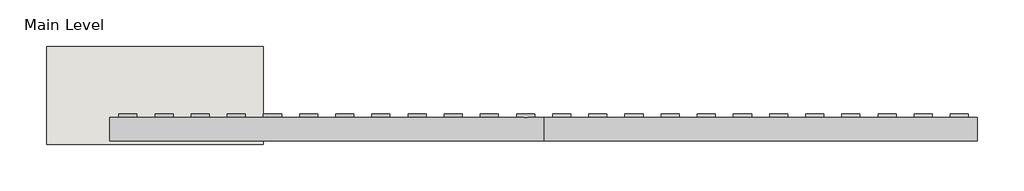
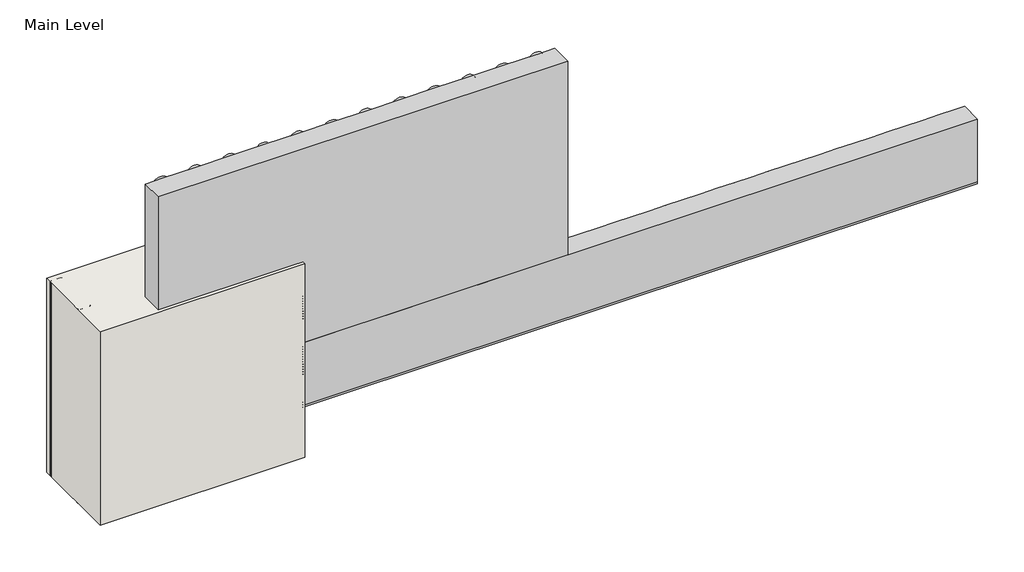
# One storey, incomplete: 9 proxies, 1 wall.
"""IFC4 building model written with IfcOpenShell, lengths in millimetres."""

from ifc_helpers import new_model, si_unit, origin, origin_with_axes, place, context, project, spatial, polyline, outline, extrude, transform, mapped, element, save
from components import generic_models_f9e3ba3a, generic_models_6aeff0d6, generic_models_a7b0360c, generic_models_f109a2ff, generic_models_8dcf8eaa, generic_models_31547c53, generic_models_4ceaeb6f, proxy_50213ae0, proxy_cc65e3d2

model = new_model("IFC4")

# Units and contexts
model_context = context("Model", 3, world=origin())
ifc_project = project(units=[si_unit("LENGTHUNIT", "METRE", prefix="MILLI")], contexts=[model_context])

# Site, building, storey
site = spatial("IfcSite", under=ifc_project)
building = spatial("IfcBuilding", under=site)
storey = spatial("IfcBuildingStorey", under=building, Name="Main Level", Elevation=0.0)

# Proxies
placement = place(None, origin())
generic_models_shape = generic_models_f9e3ba3a(model_context)
element("IfcBuildingElementProxy", 1, Name="Durabond Generic Model Insulation Adhesive Flat : Durabond Generic Model Insulation Adhesive Flat", ObjectType="Durabond Generic Model Insulation Adhesive Flat : Durabond Generic Model Insulation Adhesive Flat", at=placement, inside=storey, context=model_context, shape_type="MappedRepresentation", body=[
    mapped(generic_models_shape, transform((26717.7726773, 627.6316297, 215.9), x_axis=(1.0, 0.0, 0.0), y_axis=(0.0, 1.0, 0.0), z_axis=(0.0, 0.0, 1.0))),
])
element("IfcBuildingElementProxy", 2, Name="Durabond Generic Model Insulation Adhesive Flat : Durabond Generic Model Insulation Adhesive Flat", ObjectType="Durabond Generic Model Insulation Adhesive Flat : Durabond Generic Model Insulation Adhesive Flat", at=placement, inside=storey, context=model_context, shape_type="MappedRepresentation", body=[
    mapped(generic_models_shape, transform((26819.3726773, 627.6316297, 215.9), x_axis=(1.0, 0.0, 0.0), y_axis=(0.0, 1.0, 0.0), z_axis=(0.0, 0.0, 1.0))),
])
element("IfcBuildingElementProxy", 3, Name="Durabond Generic Model Insulation Adhesive Flat : Durabond Generic Model Insulation Adhesive Flat", ObjectType="Durabond Generic Model Insulation Adhesive Flat : Durabond Generic Model Insulation Adhesive Flat", at=placement, inside=storey, context=model_context, shape_type="MappedRepresentation", body=[
    mapped(generic_models_shape, transform((26920.9726773, 627.6316297, 215.9), x_axis=(1.0, 0.0, 0.0), y_axis=(0.0, 1.0, 0.0), z_axis=(0.0, 0.0, 1.0))),
])
element("IfcBuildingElementProxy", 4, Name="Durabond Generic Model Insulation Adhesive Flat : Durabond Generic Model Insulation Adhesive Flat", ObjectType="Durabond Generic Model Insulation Adhesive Flat : Durabond Generic Model Insulation Adhesive Flat", at=placement, inside=storey, context=model_context, shape_type="MappedRepresentation", body=[
    mapped(generic_models_shape, transform((27022.5726773, 627.6316297, 215.9), x_axis=(1.0, 0.0, 0.0), y_axis=(0.0, 1.0, 0.0), z_axis=(0.0, 0.0, 1.0))),
])
generic_models_2_shape = generic_models_6aeff0d6(model_context)
generic_models_3_shape = generic_models_a7b0360c(model_context)
generic_models_4_shape = generic_models_f109a2ff(model_context)
generic_models_5_shape = generic_models_8dcf8eaa(model_context)
element("IfcBuildingElementProxy", 5, Name="CRAi Generic Model Mesh Piece Face Based : CRAi Generic Model Mesh Piece Face Based", ObjectType="CRAi Generic Model Mesh Piece Face Based : CRAi Generic Model Mesh Piece Face Based", at=placement, inside=storey, context=model_context, shape_type="MappedRepresentation", body=[
    mapped(generic_models_2_shape, transform((26933.6726773, 541.9066297, 330.2), x_axis=(-1.0, 0.0, 0.0), y_axis=(0.0, 0.0, -1.0), z_axis=(0.0, -1.0, 0.0))),
    mapped(generic_models_3_shape, transform((26933.6726773, 541.9066297, 330.2), x_axis=(-1.0, 0.0, 0.0), y_axis=(0.0, 0.0, -1.0), z_axis=(0.0, -1.0, 0.0))),
    mapped(generic_models_4_shape, transform((26933.6726773, 541.9066297, 330.2), x_axis=(-1.0, 0.0, 0.0), y_axis=(0.0, 0.0, -1.0), z_axis=(0.0, -1.0, 0.0))),
    mapped(generic_models_5_shape, transform((26933.6726773, 541.9066297, 330.2), x_axis=(-1.0, 0.0, 0.0), y_axis=(0.0, 0.0, -1.0), z_axis=(0.0, -1.0, 0.0))),
])
generic_models_6_shape = generic_models_31547c53(model_context)
element("IfcBuildingElementProxy", 6, Name="Durabond Generic Model Sealant Vent : Durabond Generic Model Sealant Vent", ObjectType="Durabond Generic Model Sealant Vent : Durabond Generic Model Sealant Vent", at=placement, inside=storey, context=model_context, shape_type="MappedRepresentation", body=[
    mapped(generic_models_6_shape, transform((26878.1101773, 570.4816297, 146.84375), x_axis=(1.0, 0.0, 0.0), y_axis=(0.0, 0.0, 1.0), z_axis=(0.0, -1.0, 0.0))),
])
generic_models_7_shape = generic_models_4ceaeb6f(model_context)
element("IfcBuildingElementProxy", 7, Name="CRAi Generic Model Metal Stud Array : CRAi Generic Model Metal Stud Array", ObjectType="CRAi Generic Model Metal Stud Array : CRAi Generic Model Metal Stud Array", at=placement, inside=storey, context=model_context, shape_type="MappedRepresentation", body=[
    mapped(generic_models_7_shape, transform((26692.3726773, 726.0566297, 0.0), x_axis=(-1.0, 0.0, 0.0), y_axis=(0.0, -1.0, 0.0), z_axis=(0.0, 0.0, 1.0))),
])
proxy_shape = proxy_50213ae0(model_context)
element("IfcBuildingElementProxy", 8, Name="Durabond Generic Model Quantum Select 5-0 Insulation Board : 3\"", ObjectType="Durabond Generic Model Quantum Select 5-0 Insulation Board : 3\"", at=placement, inside=storey, context=model_context, shape_type="MappedRepresentation", body=[
    mapped(proxy_shape, transform((27276.5726773, 624.4566297, 660.4), x_axis=(1.0, 0.0, 0.0), y_axis=(0.0, 0.0, 1.0), z_axis=(0.0, -1.0, 0.0))),
])
proxy_2_shape = proxy_cc65e3d2(model_context)
element("IfcBuildingElementProxy", 9, Name="Durabond Generic Model Quantum Select 5-0 Vent Board : 3\"", ObjectType="Durabond Generic Model Quantum Select 5-0 Vent Board : 3\"", at=placement, inside=storey, context=model_context, shape_type="MappedRepresentation", body=[
    mapped(proxy_2_shape, transform((27886.1726773, 624.4566297, 254.0), x_axis=(1.0, 0.0, 0.0), y_axis=(0.0, 0.0, 1.0), z_axis=(0.0, -1.0, 0.0))),
])

# Wall
element("IfcWall", 10, ObjectType="189mm (7.5”) EIFS Field Applied on Mtl. Stud Layer - 50mm Grooved Insulation Board Metal Stud Wall", at=placement, inside=storey, context=model_context, shape_type="SweptSolid", body=[
    extrude(outline(polyline([(27098.7726773, 538.7316297), (26489.1726773, 538.7316297), (26489.1726773, 814.9566297), (27098.7726773, 814.9566297), (27098.7726773, 538.7316297)])), origin_with_axes(), (0.0, 0.0, 1.0), 609.6),
])

save(model, "model.ifc")
